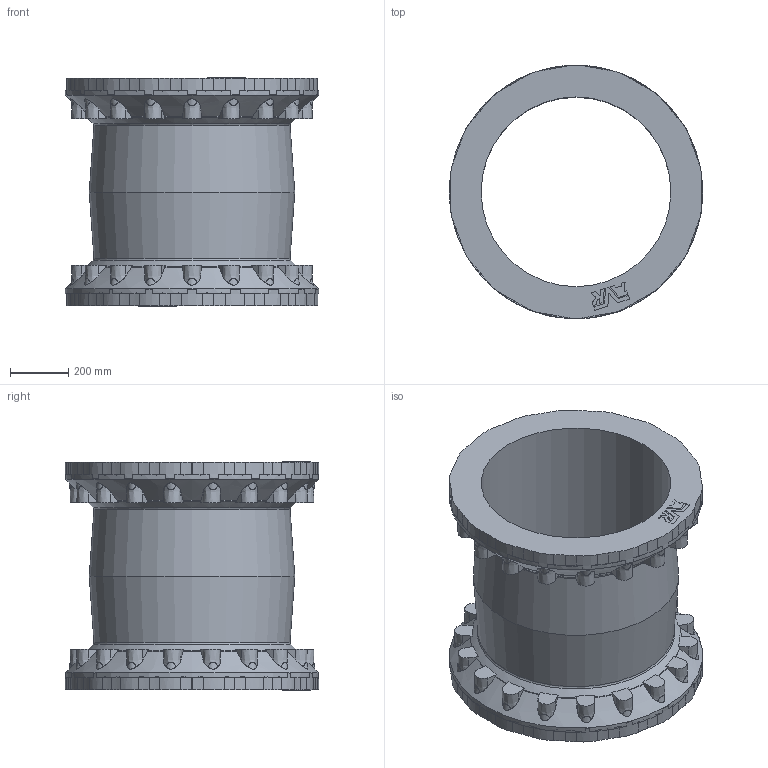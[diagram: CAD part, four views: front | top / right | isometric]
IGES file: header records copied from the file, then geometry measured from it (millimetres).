
Start section: SolidWorks IGES file using analytic representation for surfaces
Global section: file name: \\avksan2\techshare\PBM outline export from Enovia\O_631_00_DN600_AA0.igs; native system: SolidWorks 2012; preprocessor: SolidWorks 2012; author: pbm; date: 180703.074421; units: millimetre
Bounding box: 870 x 870.99 x 783.99 mm (x, y, z)
Surface area: 4324532.6 mm2 (no closed solid volume)
Topology: 0 solids, 0 shells, 559 faces, 3296 edges, 3288 vertices
Faces by surface type: revolution 343, bspline 216
